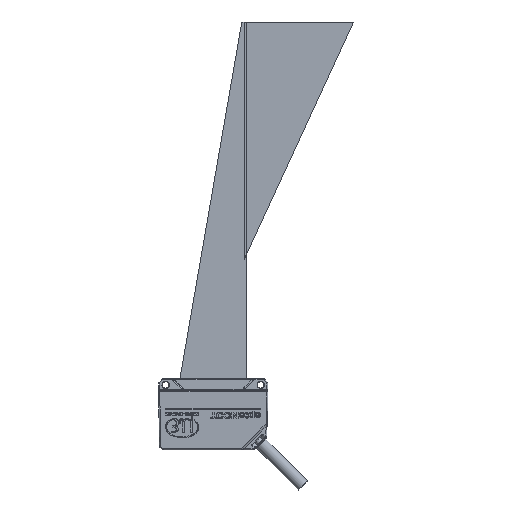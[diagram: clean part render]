
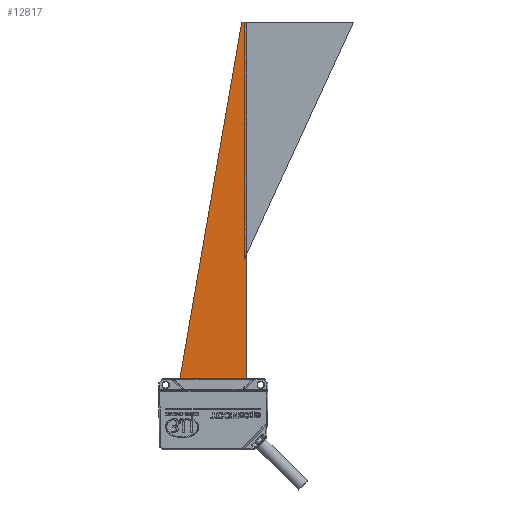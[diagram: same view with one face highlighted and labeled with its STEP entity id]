
A CAD part, front view. The second image highlights one B-rep face of the part: STEP entity #12817.
In plain terms, the highlighted planar face has unit normal (0, -1, 0).
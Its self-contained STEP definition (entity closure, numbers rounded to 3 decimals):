
#5073 = LINE ( 'NONE', #24747, #35785 ) ;
#6161 = DIRECTION ( 'NONE',  ( 1., 0., 0. ) ) ;
#6928 = CARTESIAN_POINT ( 'NONE',  ( 14., -1.5, 154.999 ) ) ;
#12817 = ADVANCED_FACE ( 'NONE', ( #30496 ), #18000, .T. ) ;
#14163 = CARTESIAN_POINT ( 'NONE',  ( 14., -1.5, 5. ) ) ;
#14655 = CARTESIAN_POINT ( 'NONE',  ( -14., -1.5, 5. ) ) ;
#15075 = AXIS2_PLACEMENT_3D ( 'NONE', #28804, #24489, #35081 ) ;
#17850 = EDGE_CURVE ( 'NONE', #42942, #60317, #47237, .T. ) ;
#18000 = PLANE ( 'NONE',  #15075 ) ;
#19654 = EDGE_CURVE ( 'NONE', #37192, #42942, #29253, .T. ) ;
#22172 = VECTOR ( 'NONE', #29711, 1000. ) ;
#22682 = EDGE_CURVE ( 'NONE', #60317, #60315, #62520, .T. ) ;
#24489 = DIRECTION ( 'NONE',  ( 0., -1., 0. ) ) ;
#24747 = CARTESIAN_POINT ( 'NONE',  ( 12., -1.5, 154.999 ) ) ;
#28804 = CARTESIAN_POINT ( 'NONE',  ( 0., -1.5, 0. ) ) ;
#29253 = LINE ( 'NONE', #57643, #53532 ) ;
#29711 = DIRECTION ( 'NONE',  ( 0., 0., -1. ) ) ;
#30496 = FACE_OUTER_BOUND ( 'NONE', #47883, .T. ) ;
#32623 = ORIENTED_EDGE ( 'NONE', *, *, #17850, .F. ) ;
#35081 = DIRECTION ( 'NONE',  ( 0., 0., -1. ) ) ;
#35785 = VECTOR ( 'NONE', #39466, 1000. ) ;
#37192 = VERTEX_POINT ( 'NONE', #65913 ) ;
#37417 = VECTOR ( 'NONE', #44942, 1000. ) ;
#39466 = DIRECTION ( 'NONE',  ( 0.171, 0., 0.985 ) ) ;
#42942 = VERTEX_POINT ( 'NONE', #6928 ) ;
#43780 = ORIENTED_EDGE ( 'NONE', *, *, #22682, .F. ) ;
#44942 = DIRECTION ( 'NONE',  ( -1., 0., 0. ) ) ;
#47237 = LINE ( 'NONE', #14163, #22172 ) ;
#47883 = EDGE_LOOP ( 'NONE', ( #43780, #32623, #51326, #65602 ) ) ;
#50241 = CARTESIAN_POINT ( 'NONE',  ( -14., -1.5, 5. ) ) ;
#51326 = ORIENTED_EDGE ( 'NONE', *, *, #19654, .F. ) ;
#53532 = VECTOR ( 'NONE', #6161, 1000. ) ;
#54588 = EDGE_CURVE ( 'NONE', #60315, #37192, #5073, .T. ) ;
#57643 = CARTESIAN_POINT ( 'NONE',  ( 14., -1.5, 154.999 ) ) ;
#60315 = VERTEX_POINT ( 'NONE', #50241 ) ;
#60317 = VERTEX_POINT ( 'NONE', #61058 ) ;
#61058 = CARTESIAN_POINT ( 'NONE',  ( 14., -1.5, 5. ) ) ;
#62520 = LINE ( 'NONE', #14655, #37417 ) ;
#65602 = ORIENTED_EDGE ( 'NONE', *, *, #54588, .F. ) ;
#65913 = CARTESIAN_POINT ( 'NONE',  ( 12., -1.5, 154.999 ) ) ;
